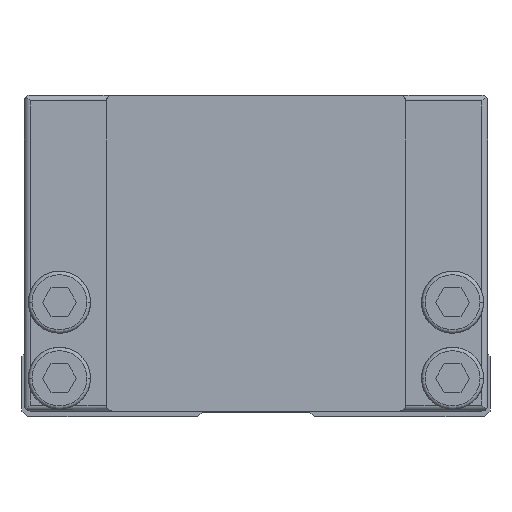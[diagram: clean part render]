
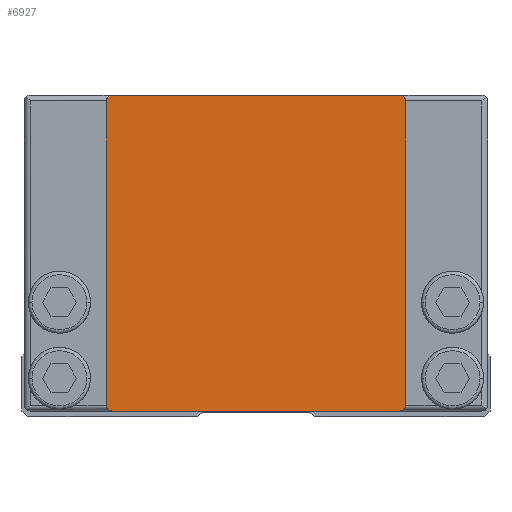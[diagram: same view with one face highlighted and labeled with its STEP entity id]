
A CAD part, front view. The second image highlights one B-rep face of the part: STEP entity #6927.
In plain terms, the highlighted planar face has unit normal (0, -1, 0).
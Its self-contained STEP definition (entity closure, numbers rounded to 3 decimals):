
#4561=VERTEX_POINT('',#12188);
#4819=EDGE_CURVE('',#6065,#11217,#12473,.T.);
#5393=EDGE_CURVE('',#8669,#7193,#13105,.T.);
#6065=VERTEX_POINT('',#13838);
#6927=ADVANCED_FACE('',(#14812),#14813,.T.);
#7129=EDGE_CURVE('',#11217,#7355,#15030,.T.);
#7193=VERTEX_POINT('',#15101);
#7231=EDGE_CURVE('',#7193,#9911,#15142,.T.);
#7355=VERTEX_POINT('',#15281);
#7433=EDGE_CURVE('',#9911,#8667,#15365,.T.);
#7891=EDGE_CURVE('',#8667,#6065,#15881,.T.);
#8667=VERTEX_POINT('',#16742);
#8669=VERTEX_POINT('',#16744);
#9195=EDGE_CURVE('',#4561,#8669,#17327,.T.);
#9911=VERTEX_POINT('',#18113);
#10015=EDGE_CURVE('',#7355,#4561,#18233,.T.);
#11217=VERTEX_POINT('',#19557);
#12188=CARTESIAN_POINT('',(12.8,0.0,27.0));
#12473=CIRCLE('',#21289,0.5);
#13105=CIRCLE('',#22306,0.5);
#13838=CARTESIAN_POINT('',(-12.8,0.0,27.0));
#14812=FACE_OUTER_BOUND('',#24827,.T.);
#14813=PLANE('',#24828);
#15030=LINE('',#25134,#25135);
#15101=CARTESIAN_POINT('',(12.3,0.0,0.5));
#15142=LINE('',#25286,#25287);
#15281=CARTESIAN_POINT('',(12.3,0.0,27.5));
#15365=CIRCLE('',#25596,0.5);
#15881=LINE('',#26354,#26355);
#16742=CARTESIAN_POINT('',(-12.8,0.0,1.0));
#16744=CARTESIAN_POINT('',(12.8,0.0,1.0));
#17327=LINE('',#28471,#28472);
#18113=CARTESIAN_POINT('',(-12.3,0.0,0.5));
#18233=CIRCLE('',#29805,0.5);
#19557=CARTESIAN_POINT('',(-12.3,0.0,27.5));
#21289=AXIS2_PLACEMENT_3D('',#33246,#33247,#33248);
#22306=AXIS2_PLACEMENT_3D('',#33916,#33917,#33918);
#24827=EDGE_LOOP('',(#35917,#35918,#35919,#35920,#35921,#35922,#35923,#35924));
#24828=AXIS2_PLACEMENT_3D('',#35925,#35926,#35927);
#25134=CARTESIAN_POINT('',(12.3,0.0,27.5));
#25135=VECTOR('',#36146,1.0);
#25286=CARTESIAN_POINT('',(-12.3,0.0,0.5));
#25287=VECTOR('',#36250,1.0);
#25596=AXIS2_PLACEMENT_3D('',#36541,#36542,#36543);
#26354=CARTESIAN_POINT('',(-12.8,0.0,27.0));
#26355=VECTOR('',#37167,1.0);
#28471=CARTESIAN_POINT('',(12.8,0.0,1.0));
#28472=VECTOR('',#38866,1.0);
#29805=AXIS2_PLACEMENT_3D('',#39892,#39893,#39894);
#33246=CARTESIAN_POINT('',(-12.3,0.0,27.0));
#33247=DIRECTION('',(0.0,1.0,-0.0));
#33248=DIRECTION('',(0.,0.0,1.0));
#33916=CARTESIAN_POINT('',(12.3,0.0,1.));
#33917=DIRECTION('',(-0.0,1.0,0.0));
#33918=DIRECTION('',(0.0,0.0,-1.0));
#35917=ORIENTED_EDGE('',*,*,#7891,.F.);
#35918=ORIENTED_EDGE('',*,*,#7433,.F.);
#35919=ORIENTED_EDGE('',*,*,#7231,.F.);
#35920=ORIENTED_EDGE('',*,*,#5393,.F.);
#35921=ORIENTED_EDGE('',*,*,#9195,.F.);
#35922=ORIENTED_EDGE('',*,*,#10015,.F.);
#35923=ORIENTED_EDGE('',*,*,#7129,.F.);
#35924=ORIENTED_EDGE('',*,*,#4819,.F.);
#35925=CARTESIAN_POINT('',(0.,0.0,14.0));
#35926=DIRECTION('',(0.0,-1.0,0.0));
#35927=DIRECTION('',(1.0,0.0,0.0));
#36146=DIRECTION('',(1.0,0.0,0.0));
#36250=DIRECTION('',(-1.0,0.0,-0.0));
#36541=CARTESIAN_POINT('',(-12.3,0.0,1.));
#36542=DIRECTION('',(0.0,1.0,-0.0));
#36543=DIRECTION('',(-1.0,0.0,0.));
#37167=DIRECTION('',(0.0,0.0,1.0));
#38866=DIRECTION('',(-0.0,0.0,-1.0));
#39892=CARTESIAN_POINT('',(12.3,0.0,27.0));
#39893=DIRECTION('',(-0.0,1.0,0.0));
#39894=DIRECTION('',(1.0,0.0,0.));
